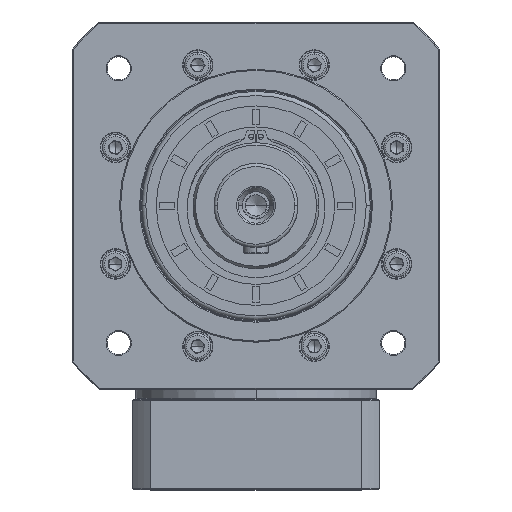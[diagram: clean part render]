
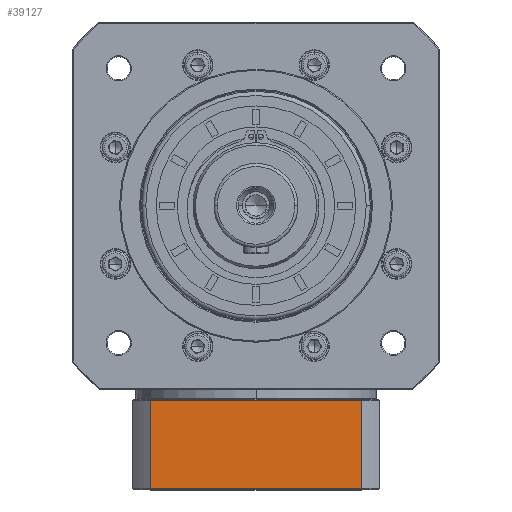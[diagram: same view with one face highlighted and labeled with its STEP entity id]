
A CAD part, top view. The second image highlights one B-rep face of the part: STEP entity #39127.
In plain terms, the highlighted planar face has unit normal (0, 0, 1).
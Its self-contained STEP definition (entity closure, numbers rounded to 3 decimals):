
#56 = CARTESIAN_POINT ( 'NONE',  ( -249.819, -120.419, 66.401 ) ) ;
#1006 = ORIENTED_EDGE ( 'NONE', *, *, #62289, .F. ) ;
#1054 = VERTEX_POINT ( 'NONE', #56 ) ;
#7822 = CARTESIAN_POINT ( 'NONE',  ( -149.316, -162.419, 66.401 ) ) ;
#8266 = CARTESIAN_POINT ( 'NONE',  ( -249.819, -162.919, 66.401 ) ) ;
#8365 = DIRECTION ( 'NONE',  ( 1., 0., 0. ) ) ;
#12494 = DIRECTION ( 'NONE',  ( 0., -1., 0. ) ) ;
#23513 = DIRECTION ( 'NONE',  ( -1., 0., 0. ) ) ;
#25201 = VECTOR ( 'NONE', #8365, 1000. ) ;
#28595 = EDGE_CURVE ( 'NONE', #77836, #150668, #53822, .T. ) ;
#39127 = ADVANCED_FACE ( 'NONE', ( #41620 ), #141276, .F. ) ;
#41593 = DIRECTION ( 'NONE',  ( 0., 0., -1. ) ) ;
#41620 = FACE_OUTER_BOUND ( 'NONE', #139465, .T. ) ;
#44602 = EDGE_CURVE ( 'NONE', #71644, #1054, #121418, .T. ) ;
#53822 = LINE ( 'NONE', #123611, #121874 ) ;
#61214 = DIRECTION ( 'NONE',  ( 0., 1., 0. ) ) ;
#62289 = EDGE_CURVE ( 'NONE', #150668, #71644, #120611, .T. ) ;
#66694 = DIRECTION ( 'NONE',  ( -1., 0., 0. ) ) ;
#68009 = CARTESIAN_POINT ( 'NONE',  ( -249.819, -162.419, 66.401 ) ) ;
#70520 = CARTESIAN_POINT ( 'NONE',  ( -258.567, -120.419, 66.401 ) ) ;
#71644 = VERTEX_POINT ( 'NONE', #68009 ) ;
#77836 = VERTEX_POINT ( 'NONE', #132272 ) ;
#80760 = CARTESIAN_POINT ( 'NONE',  ( -258.567, -162.419, 66.401 ) ) ;
#87432 = VECTOR ( 'NONE', #23513, 1000. ) ;
#99779 = AXIS2_PLACEMENT_3D ( 'NONE', #153313, #41593, #66694 ) ;
#118782 = ORIENTED_EDGE ( 'NONE', *, *, #156588, .F. ) ;
#120611 = LINE ( 'NONE', #80760, #87432 ) ;
#121418 = LINE ( 'NONE', #8266, #160401 ) ;
#121874 = VECTOR ( 'NONE', #12494, 1000. ) ;
#122001 = ORIENTED_EDGE ( 'NONE', *, *, #44602, .F. ) ;
#123611 = CARTESIAN_POINT ( 'NONE',  ( -149.316, 101.476, 66.401 ) ) ;
#124564 = LINE ( 'NONE', #70520, #25201 ) ;
#132272 = CARTESIAN_POINT ( 'NONE',  ( -149.316, -120.419, 66.401 ) ) ;
#132462 = ORIENTED_EDGE ( 'NONE', *, *, #28595, .F. ) ;
#139465 = EDGE_LOOP ( 'NONE', ( #132462, #118782, #122001, #1006 ) ) ;
#141276 = PLANE ( 'NONE',  #99779 ) ;
#150668 = VERTEX_POINT ( 'NONE', #7822 ) ;
#153313 = CARTESIAN_POINT ( 'NONE',  ( -258.567, -162.919, 66.401 ) ) ;
#156588 = EDGE_CURVE ( 'NONE', #1054, #77836, #124564, .T. ) ;
#160401 = VECTOR ( 'NONE', #61214, 1000. ) ;
